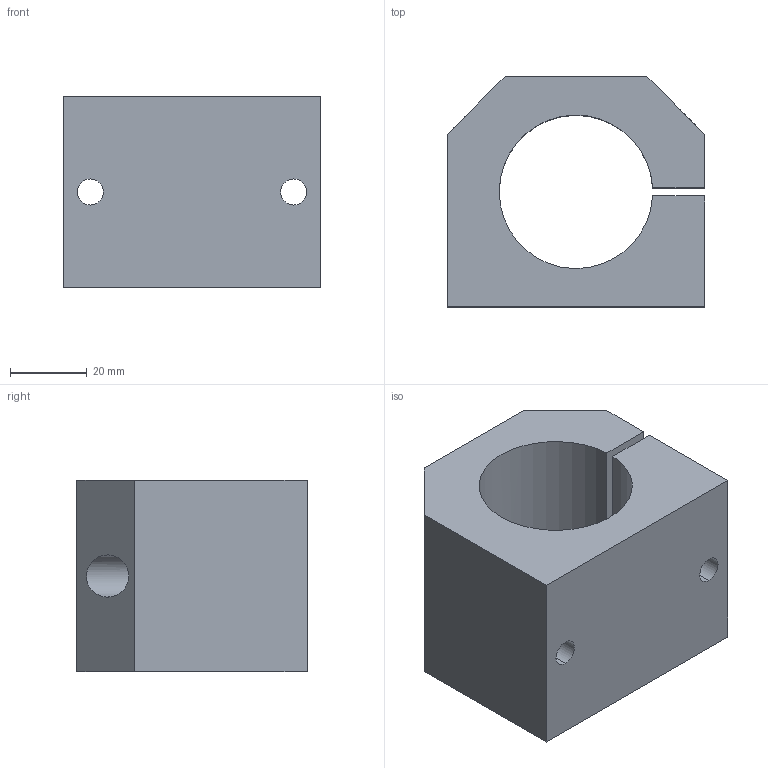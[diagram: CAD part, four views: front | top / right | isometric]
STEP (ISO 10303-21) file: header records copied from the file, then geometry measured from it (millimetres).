
FILE_DESCRIPTION (( 'STEP AP214' ), '1' );
FILE_NAME ('KGCE28 30.step', '2020-03-04T13:08:19', ( '' ), ( '' ), 'SwSTEP 2.0', 'SolidWorks 2019', '' );
FILE_SCHEMA (( 'AUTOMOTIVE_DESIGN' ));
Length unit declared in the file: millimetre
Products named in the file (1): KGCE28 30
Bounding box: 67 x 60 x 50 mm (x, y, z)
Volume: 114194 mm3; surface area: 28551.5 mm2
Topology: 1 solids, 1 shells, 41 faces, 104 edges, 66 vertices
Faces by surface type: cylinder 23, plane 14, cone 4
Entity records: 1444 total; most frequent: CARTESIAN_POINT 298, DIRECTION 210, ORIENTED_EDGE 200, EDGE_CURVE 100, AXIS2_PLACEMENT_3D 78, VERTEX_POINT 66, EDGE_LOOP 58, LINE 54
